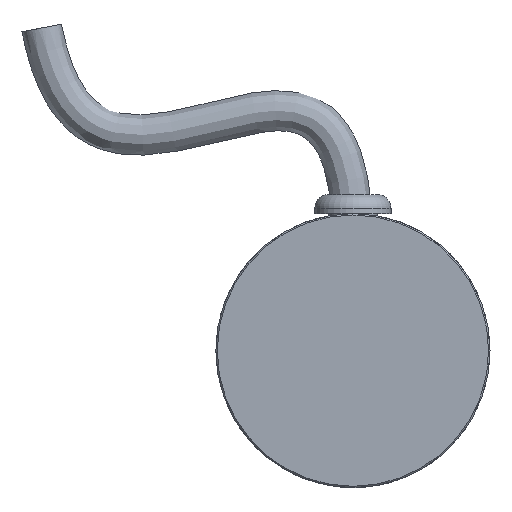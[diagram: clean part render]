
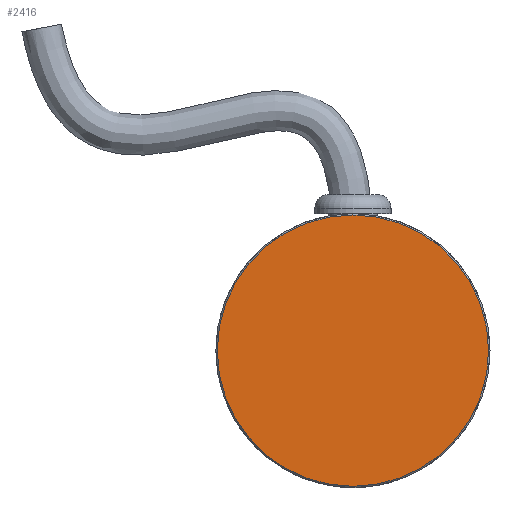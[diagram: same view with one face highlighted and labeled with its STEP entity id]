
A CAD part, front view. The second image highlights one B-rep face of the part: STEP entity #2416.
In plain terms, the highlighted planar face has unit normal (0, -1, 0).
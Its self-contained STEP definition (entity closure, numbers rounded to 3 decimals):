
#118 = CIRCLE ( 'NONE', #2076, 19.6 ) ;
#312 = ORIENTED_EDGE ( 'NONE', *, *, #654, .T. ) ;
#654 = EDGE_CURVE ( 'NONE', #1827, #1827, #118, .T. ) ;
#668 = DIRECTION ( 'NONE',  ( 0., 0., 1. ) ) ;
#676 = DIRECTION ( 'NONE',  ( 0., 0., 1. ) ) ;
#696 = CARTESIAN_POINT ( 'NONE',  ( -13., -2., 0. ) ) ;
#843 = EDGE_LOOP ( 'NONE', ( #312 ) ) ;
#1074 = CARTESIAN_POINT ( 'NONE',  ( 0., -2., 0. ) ) ;
#1113 = DIRECTION ( 'NONE',  ( 0., -1., 0. ) ) ;
#1413 = AXIS2_PLACEMENT_3D ( 'NONE', #696, #2500, #668 ) ;
#1813 = CARTESIAN_POINT ( 'NONE',  ( 0., -2., 19.6 ) ) ;
#1827 = VERTEX_POINT ( 'NONE', #1813 ) ;
#2076 = AXIS2_PLACEMENT_3D ( 'NONE', #1074, #1113, #676 ) ;
#2123 = PLANE ( 'NONE',  #1413 ) ;
#2284 = FACE_OUTER_BOUND ( 'NONE', #843, .T. ) ;
#2416 = ADVANCED_FACE ( 'NONE', ( #2284 ), #2123, .T. ) ;
#2500 = DIRECTION ( 'NONE',  ( 0., -1., 0. ) ) ;
